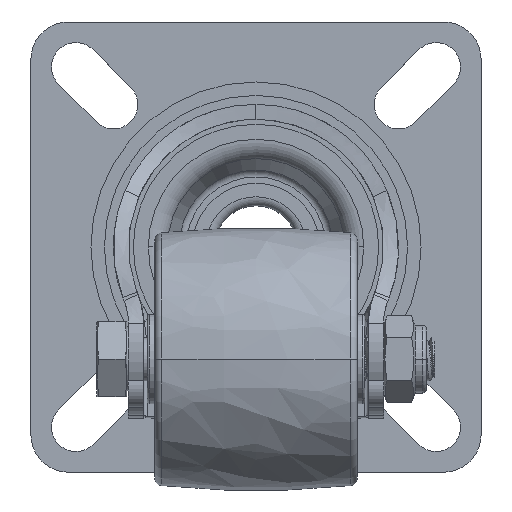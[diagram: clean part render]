
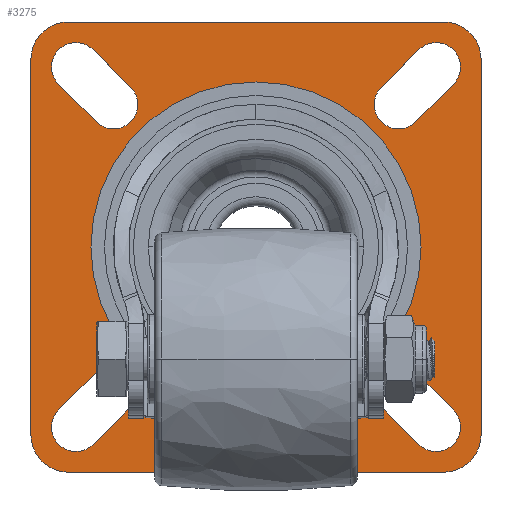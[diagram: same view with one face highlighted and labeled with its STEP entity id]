
A CAD part, top view. The second image highlights one B-rep face of the part: STEP entity #3275.
In plain terms, the highlighted planar face has unit normal (0, 0, 1).
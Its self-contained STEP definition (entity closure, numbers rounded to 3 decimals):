
#793=DIRECTION('',(-1.,0.,0.));
#794=VECTOR('',#793,50.);
#795=CARTESIAN_POINT('',(25.,-30.,-11.868));
#796=LINE('',#795,#794);
#797=CARTESIAN_POINT('',(-25.,-25.,-11.868));
#798=DIRECTION('',(0.,0.,1.));
#799=DIRECTION('',(-1.,0.,0.));
#800=AXIS2_PLACEMENT_3D('',#797,#798,#799);
#802=DIRECTION('',(0.,1.,0.));
#803=VECTOR('',#802,50.);
#804=CARTESIAN_POINT('',(-30.,-25.,-11.868));
#805=LINE('',#804,#803);
#806=CARTESIAN_POINT('',(-25.,25.,-11.868));
#807=DIRECTION('',(0.,0.,1.));
#808=DIRECTION('',(0.,1.,0.));
#809=AXIS2_PLACEMENT_3D('',#806,#807,#808);
#811=DIRECTION('',(1.,0.,0.));
#812=VECTOR('',#811,50.);
#813=CARTESIAN_POINT('',(-25.,30.,-11.868));
#814=LINE('',#813,#812);
#815=CARTESIAN_POINT('',(25.,25.,-11.868));
#816=DIRECTION('',(0.,0.,1.));
#817=DIRECTION('',(1.,0.,0.));
#818=AXIS2_PLACEMENT_3D('',#815,#816,#817);
#820=DIRECTION('',(0.,-1.,0.));
#821=VECTOR('',#820,50.);
#822=CARTESIAN_POINT('',(30.,25.,-11.868));
#823=LINE('',#822,#821);
#824=CARTESIAN_POINT('',(25.,-25.,-11.868));
#825=DIRECTION('',(0.,0.,1.));
#826=DIRECTION('',(0.,-1.,0.));
#827=AXIS2_PLACEMENT_3D('',#824,#825,#826);
#829=DIRECTION('',(-0.707,-0.707,0.));
#830=VECTOR('',#829,7.071);
#831=CARTESIAN_POINT('',(-21.298,-16.702,
-11.868));
#832=LINE('',#831,#830);
#833=CARTESIAN_POINT('',(-24.,-24.,-11.868));
#834=DIRECTION('',(0.,0.,1.));
#835=DIRECTION('',(-0.707,0.707,0.));
#836=AXIS2_PLACEMENT_3D('',#833,#834,#835);
#838=DIRECTION('',(0.707,0.707,0.));
#839=VECTOR('',#838,7.071);
#840=CARTESIAN_POINT('',(-21.702,-26.298,
-11.868));
#841=LINE('',#840,#839);
#842=CARTESIAN_POINT('',(-19.,-19.,-11.868));
#843=DIRECTION('',(0.,0.,1.));
#844=DIRECTION('',(0.707,-0.707,0.));
#845=AXIS2_PLACEMENT_3D('',#842,#843,#844);
#847=DIRECTION('',(0.707,-0.707,0.));
#848=VECTOR('',#847,7.071);
#849=CARTESIAN_POINT('',(16.702,-21.298,-11.868));
#850=LINE('',#849,#848);
#851=CARTESIAN_POINT('',(24.,-24.,-11.868));
#852=DIRECTION('',(0.,0.,1.));
#853=DIRECTION('',(-0.707,-0.707,0.));
#854=AXIS2_PLACEMENT_3D('',#851,#852,#853);
#856=DIRECTION('',(-0.707,0.707,0.));
#857=VECTOR('',#856,7.071);
#858=CARTESIAN_POINT('',(26.298,-21.702,-11.868));
#859=LINE('',#858,#857);
#860=CARTESIAN_POINT('',(19.,-19.,-11.868));
#861=DIRECTION('',(0.,0.,1.));
#862=DIRECTION('',(0.707,0.707,0.));
#863=AXIS2_PLACEMENT_3D('',#860,#861,#862);
#865=DIRECTION('',(0.707,0.707,0.));
#866=VECTOR('',#865,7.071);
#867=CARTESIAN_POINT('',(21.298,16.702,-11.868));
#868=LINE('',#867,#866);
#869=CARTESIAN_POINT('',(24.,24.,-11.868));
#870=DIRECTION('',(0.,0.,1.));
#871=DIRECTION('',(0.707,-0.707,0.));
#872=AXIS2_PLACEMENT_3D('',#869,#870,#871);
#874=DIRECTION('',(-0.707,-0.707,0.));
#875=VECTOR('',#874,7.071);
#876=CARTESIAN_POINT('',(21.702,26.298,-11.868));
#877=LINE('',#876,#875);
#878=CARTESIAN_POINT('',(19.,19.,-11.868));
#879=DIRECTION('',(0.,0.,1.));
#880=DIRECTION('',(-0.707,0.707,0.));
#881=AXIS2_PLACEMENT_3D('',#878,#879,#880);
#883=DIRECTION('',(-0.707,0.707,0.));
#884=VECTOR('',#883,7.071);
#885=CARTESIAN_POINT('',(-16.702,21.298,-11.868));
#886=LINE('',#885,#884);
#887=CARTESIAN_POINT('',(-24.,24.,-11.868));
#888=DIRECTION('',(0.,0.,1.));
#889=DIRECTION('',(0.707,0.707,0.));
#890=AXIS2_PLACEMENT_3D('',#887,#888,#889);
#892=DIRECTION('',(0.707,-0.707,0.));
#893=VECTOR('',#892,7.071);
#894=CARTESIAN_POINT('',(-26.298,21.702,-11.868));
#895=LINE('',#894,#893);
#896=CARTESIAN_POINT('',(-19.,19.,-11.868));
#897=DIRECTION('',(0.,0.,1.));
#898=DIRECTION('',(-0.707,-0.707,0.));
#899=AXIS2_PLACEMENT_3D('',#896,#897,#898);
#901=CARTESIAN_POINT('',(0.,0.,-11.868));
#902=DIRECTION('',(0.,0.,1.));
#903=DIRECTION('',(0.,-1.,0.));
#904=AXIS2_PLACEMENT_3D('',#901,#902,#903);
#906=CARTESIAN_POINT('',(0.,0.,-11.868));
#907=DIRECTION('',(0.,0.,1.));
#908=DIRECTION('',(0.,1.,0.));
#909=AXIS2_PLACEMENT_3D('',#906,#907,#908);
#1770=CARTESIAN_POINT('',(16.702,21.298,-11.868));
#1771=CARTESIAN_POINT('',(21.298,16.702,-11.868));
#1772=VERTEX_POINT('',#1770);
#1773=VERTEX_POINT('',#1771);
#1774=CARTESIAN_POINT('',(-21.298,16.702,
-11.868));
#1775=CARTESIAN_POINT('',(-16.702,21.298,
-11.868));
#1776=VERTEX_POINT('',#1774);
#1777=VERTEX_POINT('',#1775);
#1778=CARTESIAN_POINT('',(-16.702,-21.298,
-11.868));
#1779=CARTESIAN_POINT('',(-21.298,-16.702,
-11.868));
#1780=VERTEX_POINT('',#1778);
#1781=VERTEX_POINT('',#1779);
#1782=CARTESIAN_POINT('',(21.298,-16.702,
-11.868));
#1783=CARTESIAN_POINT('',(16.702,-21.298,
-11.868));
#1784=VERTEX_POINT('',#1782);
#1785=VERTEX_POINT('',#1783);
#1786=CARTESIAN_POINT('',(30.,25.,-11.868));
#1787=CARTESIAN_POINT('',(25.,30.,-11.868));
#1788=VERTEX_POINT('',#1786);
#1789=VERTEX_POINT('',#1787);
#1790=CARTESIAN_POINT('',(25.,-30.,-11.868));
#1791=CARTESIAN_POINT('',(30.,-25.,-11.868));
#1792=VERTEX_POINT('',#1790);
#1793=VERTEX_POINT('',#1791);
#1794=CARTESIAN_POINT('',(-30.,-25.,-11.868));
#1795=CARTESIAN_POINT('',(-25.,-30.,-11.868));
#1796=VERTEX_POINT('',#1794);
#1797=VERTEX_POINT('',#1795);
#1798=CARTESIAN_POINT('',(-25.,30.,-11.868));
#1799=CARTESIAN_POINT('',(-30.,25.,-11.868));
#1800=VERTEX_POINT('',#1798);
#1801=VERTEX_POINT('',#1799);
#1802=CARTESIAN_POINT('',(26.298,21.702,-11.868));
#1803=CARTESIAN_POINT('',(21.702,26.298,-11.868));
#1804=VERTEX_POINT('',#1802);
#1805=VERTEX_POINT('',#1803);
#1806=CARTESIAN_POINT('',(-21.702,26.298,
-11.868));
#1807=CARTESIAN_POINT('',(-26.298,21.702,
-11.868));
#1808=VERTEX_POINT('',#1806);
#1809=VERTEX_POINT('',#1807);
#1810=CARTESIAN_POINT('',(-26.298,-21.702,
-11.868));
#1811=CARTESIAN_POINT('',(-21.702,-26.298,
-11.868));
#1812=VERTEX_POINT('',#1810);
#1813=VERTEX_POINT('',#1811);
#1814=CARTESIAN_POINT('',(21.702,-26.298,
-11.868));
#1815=CARTESIAN_POINT('',(26.298,-21.702,
-11.868));
#1816=VERTEX_POINT('',#1814);
#1817=VERTEX_POINT('',#1815);
#1952=CARTESIAN_POINT('',(0.,-14.556,-11.868));
#1953=CARTESIAN_POINT('',(0.,14.556,-11.868));
#1954=VERTEX_POINT('',#1952);
#1955=VERTEX_POINT('',#1953);
#3208=CARTESIAN_POINT('',(0.,0.,-11.868));
#3209=DIRECTION('',(0.,0.,-1.));
#3210=DIRECTION('',(1.,0.,0.));
#3211=AXIS2_PLACEMENT_3D('',#3208,#3209,#3210);
#3212=PLANE('',#3211);
#3214=ORIENTED_EDGE('',*,*,#3213,.T.);
#3216=ORIENTED_EDGE('',*,*,#3215,.F.);
#3218=ORIENTED_EDGE('',*,*,#3217,.T.);
#3220=ORIENTED_EDGE('',*,*,#3219,.F.);
#3222=ORIENTED_EDGE('',*,*,#3221,.T.);
#3224=ORIENTED_EDGE('',*,*,#3223,.F.);
#3226=ORIENTED_EDGE('',*,*,#3225,.T.);
#3228=ORIENTED_EDGE('',*,*,#3227,.F.);
#3229=EDGE_LOOP('',(#3214,#3216,#3218,#3220,#3222,#3224,#3226,#3228));
#3230=FACE_OUTER_BOUND('',#3229,.F.);
#3232=ORIENTED_EDGE('',*,*,#3231,.T.);
#3234=ORIENTED_EDGE('',*,*,#3233,.T.);
#3236=ORIENTED_EDGE('',*,*,#3235,.T.);
#3238=ORIENTED_EDGE('',*,*,#3237,.T.);
#3239=EDGE_LOOP('',(#3232,#3234,#3236,#3238));
#3240=FACE_BOUND('',#3239,.F.);
#3242=ORIENTED_EDGE('',*,*,#3241,.T.);
#3244=ORIENTED_EDGE('',*,*,#3243,.T.);
#3246=ORIENTED_EDGE('',*,*,#3245,.T.);
#3248=ORIENTED_EDGE('',*,*,#3247,.T.);
#3249=EDGE_LOOP('',(#3242,#3244,#3246,#3248));
#3250=FACE_BOUND('',#3249,.F.);
#3252=ORIENTED_EDGE('',*,*,#3251,.T.);
#3254=ORIENTED_EDGE('',*,*,#3253,.T.);
#3256=ORIENTED_EDGE('',*,*,#3255,.T.);
#3258=ORIENTED_EDGE('',*,*,#3257,.T.);
#3259=EDGE_LOOP('',(#3252,#3254,#3256,#3258));
#3260=FACE_BOUND('',#3259,.F.);
#3262=ORIENTED_EDGE('',*,*,#3261,.T.);
#3264=ORIENTED_EDGE('',*,*,#3263,.T.);
#3266=ORIENTED_EDGE('',*,*,#3265,.T.);
#3268=ORIENTED_EDGE('',*,*,#3267,.T.);
#3269=EDGE_LOOP('',(#3262,#3264,#3266,#3268));
#3270=FACE_BOUND('',#3269,.F.);
#3271=ORIENTED_EDGE('',*,*,#3171,.T.);
#3272=ORIENTED_EDGE('',*,*,#3189,.T.);
#3273=EDGE_LOOP('',(#3271,#3272));
#3274=FACE_BOUND('',#3273,.F.);
#3275=ADVANCED_FACE('',(#3230,#3240,#3250,#3260,#3270,#3274),#3212,.F.);
#801=CIRCLE('',#800,5.);
#810=CIRCLE('',#809,5.);
#819=CIRCLE('',#818,5.);
#828=CIRCLE('',#827,5.);
#837=CIRCLE('',#836,3.25);
#846=CIRCLE('',#845,3.25);
#855=CIRCLE('',#854,3.25);
#864=CIRCLE('',#863,3.25);
#873=CIRCLE('',#872,3.25);
#882=CIRCLE('',#881,3.25);
#891=CIRCLE('',#890,3.25);
#900=CIRCLE('',#899,3.25);
#905=CIRCLE('',#904,14.556);
#910=CIRCLE('',#909,14.556);
#3171=EDGE_CURVE('',#1954,#1955,#905,.T.);
#3189=EDGE_CURVE('',#1955,#1954,#910,.T.);
#3213=EDGE_CURVE('',#1792,#1797,#796,.T.);
#3215=EDGE_CURVE('',#1796,#1797,#801,.T.);
#3217=EDGE_CURVE('',#1796,#1801,#805,.T.);
#3219=EDGE_CURVE('',#1800,#1801,#810,.T.);
#3221=EDGE_CURVE('',#1800,#1789,#814,.T.);
#3223=EDGE_CURVE('',#1788,#1789,#819,.T.);
#3225=EDGE_CURVE('',#1788,#1793,#823,.T.);
#3227=EDGE_CURVE('',#1792,#1793,#828,.T.);
#3231=EDGE_CURVE('',#1781,#1812,#832,.T.);
#3233=EDGE_CURVE('',#1812,#1813,#837,.T.);
#3235=EDGE_CURVE('',#1813,#1780,#841,.T.);
#3237=EDGE_CURVE('',#1780,#1781,#846,.T.);
#3241=EDGE_CURVE('',#1785,#1816,#850,.T.);
#3243=EDGE_CURVE('',#1816,#1817,#855,.T.);
#3245=EDGE_CURVE('',#1817,#1784,#859,.T.);
#3247=EDGE_CURVE('',#1784,#1785,#864,.T.);
#3251=EDGE_CURVE('',#1773,#1804,#868,.T.);
#3253=EDGE_CURVE('',#1804,#1805,#873,.T.);
#3255=EDGE_CURVE('',#1805,#1772,#877,.T.);
#3257=EDGE_CURVE('',#1772,#1773,#882,.T.);
#3261=EDGE_CURVE('',#1777,#1808,#886,.T.);
#3263=EDGE_CURVE('',#1808,#1809,#891,.T.);
#3265=EDGE_CURVE('',#1809,#1776,#895,.T.);
#3267=EDGE_CURVE('',#1776,#1777,#900,.T.);
